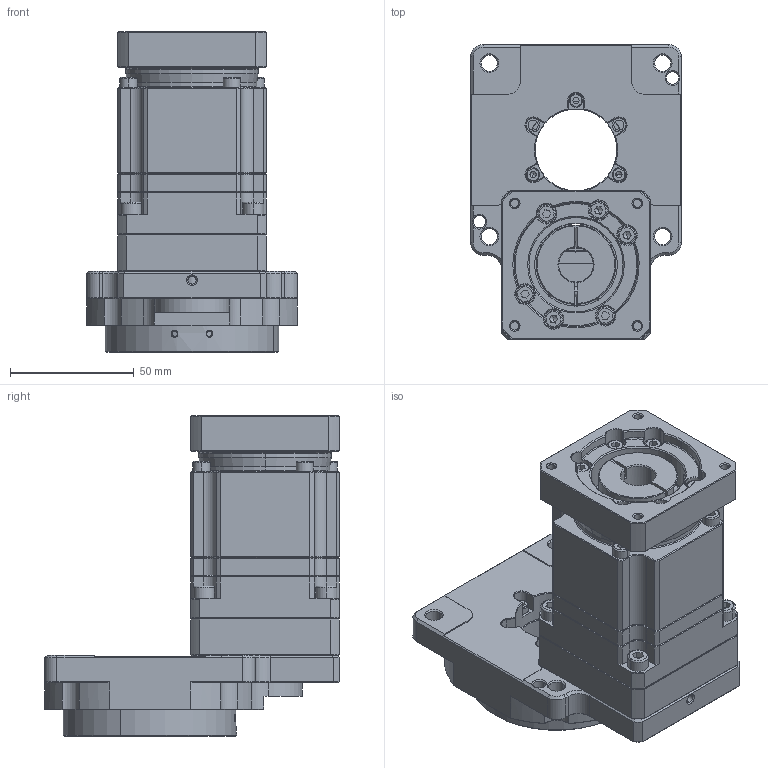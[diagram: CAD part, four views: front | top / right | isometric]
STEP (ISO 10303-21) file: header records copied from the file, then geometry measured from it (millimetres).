
FILE_DESCRIPTION (( 'STEP AP203' ), '1' );
FILE_NAME ('1.STEP', '2022-08-09T07:58:04', ( '' ), ( '' ), 'SwSTEP 2.0', 'SolidWorks 2020', '' );
FILE_SCHEMA (( 'CONFIG_CONTROL_DESIGN' ));
Length unit declared in the file: millimetre
Products named in the file (1): 1
Bounding box: 85 x 119 x 129.5 mm (x, y, z)
Surface area: 78219.9 mm2 (no closed solid volume)
Topology: 0 solids, 42 shells, 956 faces, 2870 edges, 1894 vertices
Faces by surface type: plane 398, cone 268, cylinder 218, torus 49, bspline 23
Entity records: 35316 total; most frequent: CARTESIAN_POINT 9993, DIRECTION 5347, ORIENTED_EDGE 4816, EDGE_CURVE 2846, AXIS2_PLACEMENT_3D 1955, VERTEX_POINT 1894, VECTOR 1437, LINE 1437
